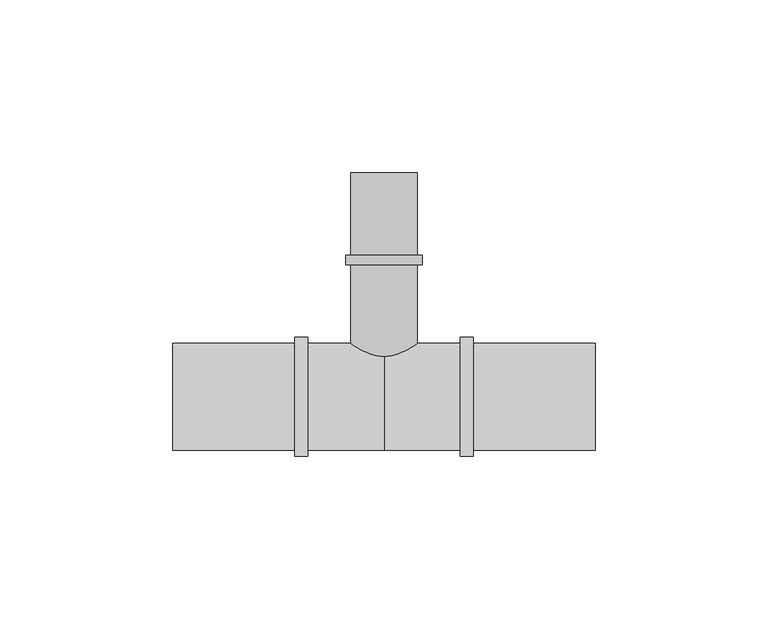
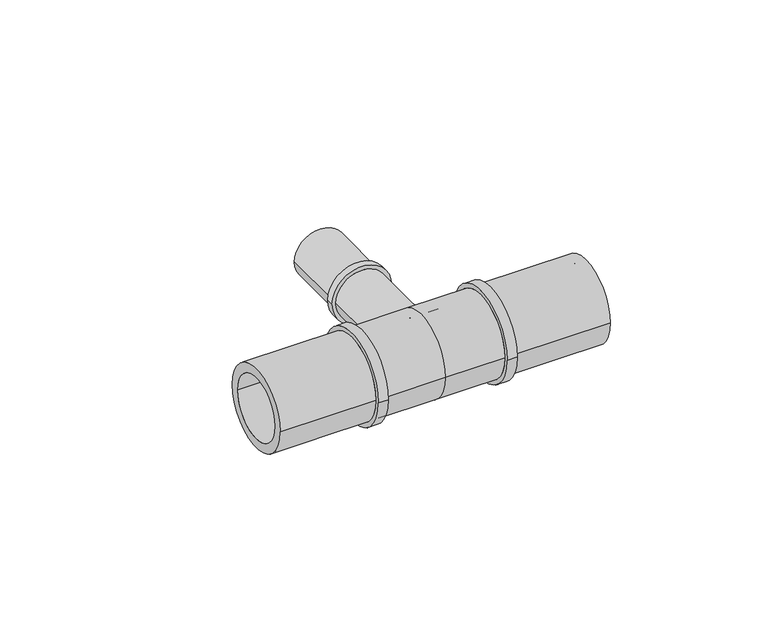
"""IFC4 building model written with IfcOpenShell, lengths in millimetres: pipe fitting geometry, FASTLOC_T-piece_LX : FSL T-Piece LX PL."""

from ifc_helpers import new_model, si_unit, frame, origin, place, context, project, spatial, polyline, circle_curve, source, transform, mapped, element, save
from ifc_brep_helpers import plane_surface, cylinder_surface, revolved_surface, advanced_brep


def pipe_fitting_a33f7a1e(model_context):
    return source(origin(), model_context, "Body", "AdvancedBrep", [
        advanced_brep(
        [(7.35, 65.0, 0.0), (-7.35, 65.0, 0.0), (-7.35, 0.0, 0.0), (7.35, 0.0, 0.0), (9.6, 0.0, 0.0), (-9.6, 0.0, 0.0), (-9.6, 38.2, 0.0), (9.6, 38.2, 0.0), (11.1, 38.2, 0.0), (-11.1, 38.2, 0.0), (-11.1, 41.0, 0.0), (11.1, 41.0, 0.0), (9.6, 41.0, 0.0), (-9.6, 41.0, 0.0), (-9.6, 65.0, 0.0), (9.6, 65.0, 0.0)],
        [
            (0, 1, circle_curve(frame((0.0, 65.0, 0.0), z_axis=(0.0, 1.0, 0.0), x_axis=(-1.0, 0.0, 0.0)), 7.35)),
            (1, 2),
            (2, 3, circle_curve(frame((0.0, 0.0, 0.0), z_axis=(0.0, -1.0, 0.0), x_axis=(-1.0, 0.0, 0.0)), 7.35)),
            (3, 0),
            (4, 5, circle_curve(frame((0.0, 0.0, 0.0), z_axis=(0.0, 1.0, 0.0), x_axis=(-1.0, 0.0, 0.0)), 9.6)),
            (5, 6),
            (6, 7, circle_curve(frame((0.0, 38.2, 0.0), z_axis=(0.0, -1.0, 0.0), x_axis=(-1.0, 0.0, 0.0)), 9.6)),
            (7, 4),
            (8, 9, circle_curve(frame((0.0, 38.2, 0.0), z_axis=(0.0, 1.0, 0.0), x_axis=(-1.0, 0.0, 0.0)), 11.1)),
            (9, 10),
            (10, 11, circle_curve(frame((0.0, 41.0, 0.0), z_axis=(0.0, -1.0, 0.0), x_axis=(-1.0, 0.0, 0.0)), 11.1)),
            (11, 8),
            (12, 13, circle_curve(frame((0.0, 41.0, 0.0), z_axis=(0.0, 1.0, 0.0), x_axis=(-1.0, 0.0, 0.0)), 9.6)),
            (13, 14),
            (14, 15, circle_curve(frame((0.0, 65.0, 0.0), z_axis=(0.0, -1.0, 0.0), x_axis=(-1.0, 0.0, 0.0)), 9.6)),
            (15, 12),
            (1, 0, circle_curve(frame((0.0, 65.0, 0.0), z_axis=(0.0, 1.0, 0.0), x_axis=(1.0, 0.0, 0.0)), 7.35)),
            (3, 2, circle_curve(frame((0.0, 0.0, 0.0), z_axis=(0.0, -1.0, 0.0), x_axis=(1.0, 0.0, 0.0)), 7.35)),
            (4, 5, circle_curve(frame((0.0, 0.0, 0.0), z_axis=(0.0, -1.0, 0.0), x_axis=(1.0, 0.0, 0.0)), 9.6)),
            (7, 6, circle_curve(frame((0.0, 38.2, 0.0), z_axis=(0.0, -1.0, 0.0), x_axis=(1.0, 0.0, 0.0)), 9.6)),
            (8, 9, circle_curve(frame((0.0, 38.2, 0.0), z_axis=(0.0, -1.0, 0.0), x_axis=(1.0, 0.0, 0.0)), 11.1)),
            (11, 10, circle_curve(frame((0.0, 41.0, 0.0), z_axis=(0.0, -1.0, 0.0), x_axis=(1.0, 0.0, 0.0)), 11.1)),
            (12, 13, circle_curve(frame((0.0, 41.0, 0.0), z_axis=(0.0, -1.0, 0.0), x_axis=(1.0, 0.0, 0.0)), 9.6)),
            (15, 14, circle_curve(frame((0.0, 65.0, 0.0), z_axis=(0.0, -1.0, 0.0), x_axis=(1.0, 0.0, 0.0)), 9.6)),
        ],
        [
            revolved_surface(polyline([(-7.35, 0.0, 0.0), (-7.35, 65.0, 0.0)]), (0.0, 0.0, 0.0), (0.0, -1.0, 0.0)),
            cylinder_surface(frame((0.0, 0.0, 0.0), z_axis=(0.0, -1.0, 0.0), x_axis=(-1.0, 0.0, 0.0)), 9.6),
            cylinder_surface(frame((0.0, 0.0, 0.0), z_axis=(0.0, -1.0, 0.0), x_axis=(-1.0, 0.0, 0.0)), 11.1),
            revolved_surface(polyline([(7.35, 0.0, 0.0), (7.35, 65.0, 0.0)]), (0.0, 0.0, 0.0), (0.0, -1.0, 0.0)),
            plane_surface(frame((0.0, 0.0, 0.0), z_axis=(0.0, -1.0, 0.0), x_axis=(1.0, 0.0, 0.0))),
            cylinder_surface(frame((0.0, 0.0, 0.0), z_axis=(0.0, -1.0, 0.0), x_axis=(1.0, 0.0, 0.0)), 9.6),
            plane_surface(frame((0.0, 38.2, 0.0), z_axis=(0.0, -1.0, 0.0), x_axis=(1.0, 0.0, 0.0))),
            cylinder_surface(frame((0.0, 0.0, 0.0), z_axis=(0.0, -1.0, 0.0), x_axis=(1.0, 0.0, 0.0)), 11.1),
            plane_surface(frame((0.0, 41.0, 0.0), z_axis=(0.0, 1.0, 0.0), x_axis=(1.0, 0.0, 0.0))),
            plane_surface(frame((0.0, 65.0, 0.0), z_axis=(0.0, 1.0, 0.0), x_axis=(1.0, 0.0, 0.0))),
        ],
        [
            (0, [[1, 2, 3, 4]]),
            (1, [[5, 6, 7, 8]]),
            (2, [[9, 10, 11, 12]]),
            (1, [[13, 14, 15, 16]]),
            (3, [[17, -4, 18, -2]]),
            (4, [[19, -5], [-18, -3]]),
            (5, [[-19, -8, 20, -6]]),
            (6, [[21, -9], [-20, -7]]),
            (7, [[-21, -12, 22, -10]]),
            (8, [[-22, -11], [23, -13]]),
            (5, [[-23, -16, 24, -14]]),
            (9, [[-24, -15], [-17, -1]]),
        ],
    ),
        advanced_brep(
        [(0.0, 15.5, 0.0), (0.0, -15.5, 0.0), (-22.1, -15.5, 0.0), (-22.1, 15.5, 0.0), (22.1, 15.5, 0.0), (22.1, -15.5, 0.0), (25.8, 17.2, 0.0), (25.8, -17.2, 0.0), (22.1, -17.2, 0.0), (22.1, 17.2, 0.0), (61.3, 15.5, 0.0), (61.3, -15.5, 0.0), (25.8, -15.5, 0.0), (25.8, 15.5, 0.0), (-25.8, 15.5, 0.0), (-25.8, -15.5, 0.0), (-61.3, -15.5, 0.0), (-61.3, 15.5, 0.0), (-22.1, 17.2, 0.0), (-22.1, -17.2, 0.0), (-25.8, -17.2, 0.0), (-25.8, 17.2, 0.0), (61.3, -11.95, 0.0), (61.3, 11.95, 0.0), (-61.3, 11.95, 0.0), (-61.3, -11.95, 0.0), (0.0, 11.95, 0.0), (0.0, -11.95, 0.0)],
        [
            (0, 1, circle_curve(frame((0.0, 0.0, 0.0), z_axis=(-1.0, 0.0, 0.0), x_axis=(0.0, -1.0, 0.0)), 15.5)),
            (1, 2),
            (2, 3, circle_curve(frame((-22.1, 0.0, 0.0), z_axis=(1.0, 0.0, 0.0), x_axis=(0.0, -1.0, 0.0)), 15.5)),
            (3, 0),
            (4, 5, circle_curve(frame((22.1, 0.0, 0.0), z_axis=(-1.0, 0.0, 0.0), x_axis=(0.0, -1.0, 0.0)), 15.5)),
            (5, 1),
            (0, 4),
            (6, 7, circle_curve(frame((25.8, 0.0, 0.0), z_axis=(-1.0, 0.0, 0.0), x_axis=(0.0, -1.0, 0.0)), 17.2)),
            (7, 8),
            (8, 9, circle_curve(frame((22.1, 0.0, 0.0), z_axis=(1.0, 0.0, 0.0), x_axis=(0.0, -1.0, 0.0)), 17.2)),
            (9, 6),
            (10, 11, circle_curve(frame((61.3, 0.0, 0.0), z_axis=(-1.0, 0.0, 0.0), x_axis=(0.0, -1.0, 0.0)), 15.5)),
            (11, 12),
            (12, 13, circle_curve(frame((25.8, 0.0, 0.0), z_axis=(1.0, 0.0, 0.0), x_axis=(0.0, -1.0, 0.0)), 15.5)),
            (13, 10),
            (14, 15, circle_curve(frame((-25.8, 0.0, 0.0), z_axis=(-1.0, 0.0, 0.0), x_axis=(0.0, -1.0, 0.0)), 15.5)),
            (15, 16),
            (16, 17, circle_curve(frame((-61.3, 0.0, 0.0), z_axis=(1.0, 0.0, 0.0), x_axis=(0.0, -1.0, 0.0)), 15.5)),
            (17, 14),
            (18, 19, circle_curve(frame((-22.1, 0.0, 0.0), z_axis=(-1.0, 0.0, 0.0), x_axis=(0.0, -1.0, 0.0)), 17.2)),
            (19, 20),
            (20, 21, circle_curve(frame((-25.8, 0.0, 0.0), z_axis=(1.0, 0.0, 0.0), x_axis=(0.0, -1.0, 0.0)), 17.2)),
            (21, 18),
            (18, 19, circle_curve(frame((-22.1, 0.0, 0.0), z_axis=(1.0, 0.0, 0.0), x_axis=(0.0, 1.0, 0.0)), 17.2)),
            (2, 3, circle_curve(frame((-22.1, 0.0, 0.0), z_axis=(-1.0, 0.0, 0.0), x_axis=(0.0, 1.0, 0.0)), 15.5)),
            (1, 0, circle_curve(frame((0.0, 0.0, 0.0), z_axis=(-1.0, 0.0, 0.0), x_axis=(0.0, 1.0, 0.0)), 15.5)),
            (5, 4, circle_curve(frame((22.1, 0.0, 0.0), z_axis=(-1.0, 0.0, 0.0), x_axis=(0.0, 1.0, 0.0)), 15.5)),
            (8, 9, circle_curve(frame((22.1, 0.0, 0.0), z_axis=(-1.0, 0.0, 0.0), x_axis=(0.0, 1.0, 0.0)), 17.2)),
            (7, 6, circle_curve(frame((25.8, 0.0, 0.0), z_axis=(-1.0, 0.0, 0.0), x_axis=(0.0, 1.0, 0.0)), 17.2)),
            (12, 13, circle_curve(frame((25.8, 0.0, 0.0), z_axis=(-1.0, 0.0, 0.0), x_axis=(0.0, 1.0, 0.0)), 15.5)),
            (11, 10, circle_curve(frame((61.3, 0.0, 0.0), z_axis=(-1.0, 0.0, 0.0), x_axis=(0.0, 1.0, 0.0)), 15.5)),
            (22, 23, circle_curve(frame((61.3, 0.0, 0.0), z_axis=(-1.0, 0.0, 0.0), x_axis=(0.0, 1.0, 0.0)), 11.95)),
            (23, 22, circle_curve(frame((61.3, 0.0, 0.0), z_axis=(-1.0, 0.0, 0.0), x_axis=(0.0, -1.0, 0.0)), 11.95)),
            (16, 17, circle_curve(frame((-61.3, 0.0, 0.0), z_axis=(-1.0, 0.0, 0.0), x_axis=(0.0, 1.0, 0.0)), 15.5)),
            (24, 25, circle_curve(frame((-61.3, 0.0, 0.0), z_axis=(1.0, 0.0, 0.0), x_axis=(0.0, 1.0, 0.0)), 11.95)),
            (25, 24, circle_curve(frame((-61.3, 0.0, 0.0), z_axis=(1.0, 0.0, 0.0), x_axis=(0.0, -1.0, 0.0)), 11.95)),
            (15, 14, circle_curve(frame((-25.8, 0.0, 0.0), z_axis=(-1.0, 0.0, 0.0), x_axis=(0.0, 1.0, 0.0)), 15.5)),
            (20, 21, circle_curve(frame((-25.8, 0.0, 0.0), z_axis=(-1.0, 0.0, 0.0), x_axis=(0.0, 1.0, 0.0)), 17.2)),
            (26, 27, circle_curve(frame((0.0, 0.0, 0.0), z_axis=(-1.0, 0.0, 0.0), x_axis=(0.0, -1.0, 0.0)), 11.95)),
            (27, 22),
            (23, 26),
            (25, 27),
            (26, 24),
            (27, 26, circle_curve(frame((0.0, 0.0, 0.0), z_axis=(-1.0, 0.0, 0.0), x_axis=(0.0, 1.0, 0.0)), 11.95)),
        ],
        [
            cylinder_surface(frame((0.0, 0.0, 0.0), z_axis=(1.0, 0.0, 0.0), x_axis=(0.0, -1.0, 0.0)), 15.5),
            cylinder_surface(frame((0.0, 0.0, 0.0), z_axis=(1.0, 0.0, 0.0), x_axis=(0.0, -1.0, 0.0)), 17.2),
            plane_surface(frame((-22.1, 0.0, 0.0), z_axis=(1.0, 0.0, 0.0), x_axis=(0.0, 1.0, 0.0))),
            cylinder_surface(frame((0.0, 0.0, 0.0), z_axis=(1.0, 0.0, 0.0), x_axis=(0.0, 1.0, 0.0)), 15.5),
            plane_surface(frame((22.1, 0.0, 0.0), z_axis=(-1.0, 0.0, 0.0), x_axis=(0.0, 1.0, 0.0))),
            cylinder_surface(frame((0.0, 0.0, 0.0), z_axis=(1.0, 0.0, 0.0), x_axis=(0.0, 1.0, 0.0)), 17.2),
            plane_surface(frame((25.8, 0.0, 0.0), z_axis=(1.0, 0.0, 0.0), x_axis=(0.0, 1.0, 0.0))),
            plane_surface(frame((61.3, 0.0, 0.0), z_axis=(1.0, 0.0, 0.0), x_axis=(0.0, 1.0, 0.0))),
            plane_surface(frame((-61.3, 0.0, 0.0), z_axis=(-1.0, 0.0, 0.0), x_axis=(0.0, 1.0, 0.0))),
            plane_surface(frame((-25.8, 0.0, 0.0), z_axis=(-1.0, 0.0, 0.0), x_axis=(0.0, 1.0, 0.0))),
            revolved_surface(polyline([(61.3, -11.95, 0.0), (0.0, -11.95, 0.0)]), (0.0, 0.0, 0.0), (1.0, 0.0, 0.0)),
            revolved_surface(polyline([(0.0, -11.95, 0.0), (-61.3, -11.95, 0.0)]), (0.0, 0.0, 0.0), (1.0, 0.0, 0.0)),
            revolved_surface(polyline([(61.3, 11.95, 0.0), (0.0, 11.95, 0.0)]), (0.0, 0.0, 0.0), (1.0, 0.0, 0.0)),
            revolved_surface(polyline([(0.0, 11.95, 0.0), (-61.3, 11.95, 0.0)]), (0.0, 0.0, 0.0), (1.0, 0.0, 0.0)),
        ],
        [
            (0, [[1, 2, 3, 4]]),
            (0, [[5, 6, -1, 7]]),
            (1, [[8, 9, 10, 11]]),
            (0, [[12, 13, 14, 15]]),
            (0, [[16, 17, 18, 19]]),
            (1, [[20, 21, 22, 23]]),
            (2, [[24, -20], [25, -3]]),
            (3, [[26, -4, -25, -2]]),
            (3, [[27, -7, -26, -6]]),
            (4, [[28, -10], [-27, -5]]),
            (5, [[29, -11, -28, -9]]),
            (6, [[-29, -8], [30, -14]]),
            (3, [[31, -15, -30, -13]]),
            (7, [[-31, -12], [32, 33]]),
            (8, [[34, -18], [35, 36]]),
            (3, [[37, -19, -34, -17]]),
            (9, [[38, -22], [-37, -16]]),
            (5, [[-24, -23, -38, -21]]),
            (10, [[39, 40, -33, 41]]),
            (11, [[-36, 42, -39, 43]]),
            (12, [[44, -41, -32, -40]]),
            (13, [[-35, -43, -44, -42]]),
        ],
    ),
    ])


if __name__ == "__main__":
    model = new_model("IFC4")
    model_context = context("Model", 3, world=origin())
    ifc_project = project(units=[si_unit("LENGTHUNIT", "METRE", prefix="MILLI")], contexts=[model_context])
    site = spatial("IfcSite", under=ifc_project)
    building = spatial("IfcBuilding", under=site)
    placement = place(None, origin())
    pipe_fitting_shape = pipe_fitting_a33f7a1e(model_context)
    element("IfcPipeFitting", 1, ObjectType="FASTLOC_T-piece_LX : FSL T-Piece LX PL", at=placement, inside=building, context=model_context, shape_type="MappedRepresentation", body=[
        mapped(pipe_fitting_shape, transform((0.0, 0.0, 0.0), x_axis=(1.0, 0.0, 0.0), y_axis=(0.0, 1.0, 0.0), z_axis=(0.0, 0.0, 1.0))),
    ])
    save(model, "model.ifc")
